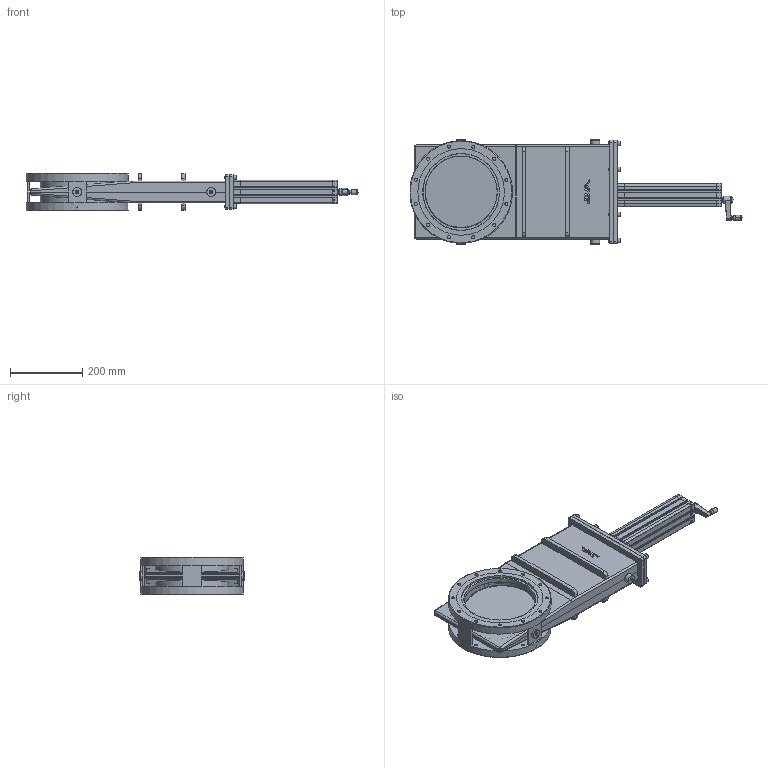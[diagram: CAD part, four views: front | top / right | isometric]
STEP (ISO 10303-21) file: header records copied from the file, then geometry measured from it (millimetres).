
FILE_DESCRIPTION(/* description */ (''),/* implementation_level */ '2;1');
FILE_NAME(/* name */ '1431917356_203.stp',/* time_stamp */ '2020-08-13T10:09:26+02:00',/* author */ (''),/* organization */ (''),/* preprocessor_version */ 'ST-DEVELOPER v16.7',/* originating_system */ 'SIEMENS PLM Software NX 1915',/* authorisation */ '');
FILE_SCHEMA (('AP203_CONFIGURATION_CONTROLLED_3D_DESIGN_OF_MECHANICAL_PARTS_AND_ASSEMBLIES_MIM_LF { 1 0 10303 403 2 1 2}'));
Length unit declared in the file: millimetre
Products named in the file (18): 931218; 933339; 935059; 924706; 407746; 933344; 424442_30366ID; 424442; 424339; 1015300; 1001716; 224833.1; n-6134-409.1; 913583; 933336_MODELNX-ARRAGMNTbearbeitet; 933320_NX-ARRAGMNTArrangement 1; 981879_MODELNX-ARRAGMNTStandart; 1003006
Assembly tree (40 placements, depth 4):
  1003006
    913583
    n-6134-409.1  x8
    224833.1  x8
    981879_MODELNX-ARRAGMNTStandart
      1001716
      1015300
    933320_NX-ARRAGMNTArrangement 1
      424339  x2
      424442
      424442_30366ID
      933344
      407746  x4
      924706  x4
      933336_MODELNX-ARRAGMNTbearbeitet
        933339  x2
        931218
      935059  x2
Bounding box: 921.82 x 289 x 102.99 mm (x, y, z)
Volume: 3760137.7 mm3; surface area: 1415486.1 mm2
Topology: 56 solids, 57 shells, 1438 faces, 3563 edges, 2328 vertices
Faces by surface type: plane 688, cylinder 519, cone 112, bspline 58, torus 48, sphere 10, revolution 2, extrusion 1
Full cylindrical faces by diameter (mm): 5 x1, 5.2 x2, 5.22 x4, 6.66 x8, 6.7 x8, 6.8 x12, 8 x16, 8.4 x8, 8.5 x24, 8.6 x8, 13 x8, 15 x8, 25 x4, 25.4 x2, 36.345 x1, 200.1 x7, 204.1 x2, 204.6 x2, 213.1 x2, 285 x2
Entity records: 49755 total; most frequent: CARTESIAN_POINT 12529, DIRECTION 6482, ORIENTED_EDGE 6048, EDGE_CURVE 3024, AXIS2_PLACEMENT_3D 2486, VERTEX_POINT 2046, EDGE_LOOP 1513, VECTOR 1508
